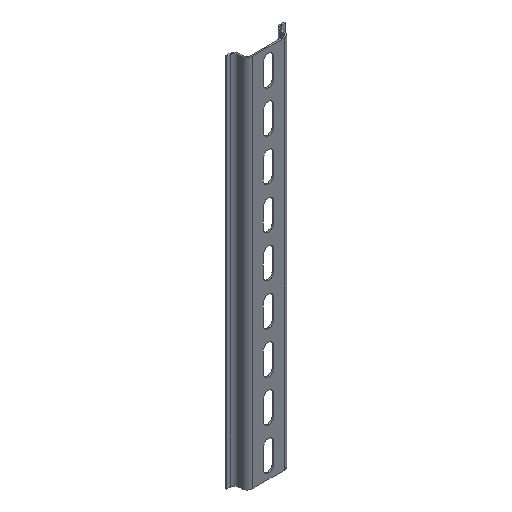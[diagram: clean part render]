
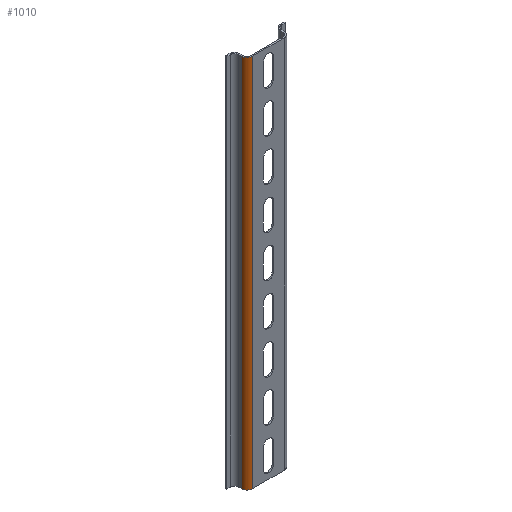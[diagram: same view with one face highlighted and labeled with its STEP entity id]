
A CAD part, isometric view. The second image highlights one B-rep face of the part: STEP entity #1010.
In plain terms, the highlighted cylindrical face has radius 3.3 mm (diameter 6.6 mm), a partial arc.
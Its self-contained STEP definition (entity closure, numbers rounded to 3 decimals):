
#7 = LINE ( 'NONE', #1440, #800 ) ;
#49 = DIRECTION ( 'NONE',  ( 0., 0., -1. ) ) ;
#86 = ORIENTED_EDGE ( 'NONE', *, *, #1515, .T. ) ;
#146 = ORIENTED_EDGE ( 'NONE', *, *, #2483, .F. ) ;
#166 = AXIS2_PLACEMENT_3D ( 'NONE', #296, #1920, #541 ) ;
#270 = CARTESIAN_POINT ( 'NONE',  ( -9.6, 2.5, 225. ) ) ;
#288 = CARTESIAN_POINT ( 'NONE',  ( -9.6, -0.8, 225. ) ) ;
#296 = CARTESIAN_POINT ( 'NONE',  ( -9.6, 2.5, 0. ) ) ;
#316 = EDGE_LOOP ( 'NONE', ( #2551, #146, #726, #86 ) ) ;
#457 = CARTESIAN_POINT ( 'NONE',  ( -9.6, -0.8, 225. ) ) ;
#516 = CARTESIAN_POINT ( 'NONE',  ( -12.9, 2.5, 225. ) ) ;
#541 = DIRECTION ( 'NONE',  ( 1., 0., 0. ) ) ;
#700 = CIRCLE ( 'NONE', #166, 3.3 ) ;
#726 = ORIENTED_EDGE ( 'NONE', *, *, #1726, .T. ) ;
#737 = CARTESIAN_POINT ( 'NONE',  ( -9.6, 2.5, 225. ) ) ;
#776 = VERTEX_POINT ( 'NONE', #1018 ) ;
#800 = VECTOR ( 'NONE', #1225, 1000. ) ;
#937 = CARTESIAN_POINT ( 'NONE',  ( -12.9, 2.5, 0. ) ) ;
#1010 = ADVANCED_FACE ( 'NONE', ( #1133 ), #2385, .T. ) ;
#1018 = CARTESIAN_POINT ( 'NONE',  ( -9.6, -0.8, 0. ) ) ;
#1036 = VERTEX_POINT ( 'NONE', #288 ) ;
#1076 = CIRCLE ( 'NONE', #1585, 3.3 ) ;
#1111 = EDGE_CURVE ( 'NONE', #776, #2070, #700, .T. ) ;
#1133 = FACE_OUTER_BOUND ( 'NONE', #316, .T. ) ;
#1225 = DIRECTION ( 'NONE',  ( 0., 0., -1. ) ) ;
#1440 = CARTESIAN_POINT ( 'NONE',  ( -12.9, 2.5, 225. ) ) ;
#1456 = DIRECTION ( 'NONE',  ( 0., 0., -1. ) ) ;
#1466 = VECTOR ( 'NONE', #49, 1000. ) ;
#1499 = DIRECTION ( 'NONE',  ( 0., 0., -1. ) ) ;
#1515 = EDGE_CURVE ( 'NONE', #2012, #2070, #7, .T. ) ;
#1555 = AXIS2_PLACEMENT_3D ( 'NONE', #270, #1456, #2066 ) ;
#1585 = AXIS2_PLACEMENT_3D ( 'NONE', #737, #1499, #2488 ) ;
#1675 = LINE ( 'NONE', #457, #1466 ) ;
#1726 = EDGE_CURVE ( 'NONE', #1036, #2012, #1076, .T. ) ;
#1920 = DIRECTION ( 'NONE',  ( 0., 0., -1. ) ) ;
#2012 = VERTEX_POINT ( 'NONE', #516 ) ;
#2066 = DIRECTION ( 'NONE',  ( -1., 0., 0. ) ) ;
#2070 = VERTEX_POINT ( 'NONE', #937 ) ;
#2385 = CYLINDRICAL_SURFACE ( 'NONE', #1555, 3.3 ) ;
#2483 = EDGE_CURVE ( 'NONE', #1036, #776, #1675, .T. ) ;
#2488 = DIRECTION ( 'NONE',  ( 1., 0., 0. ) ) ;
#2551 = ORIENTED_EDGE ( 'NONE', *, *, #1111, .F. ) ;
